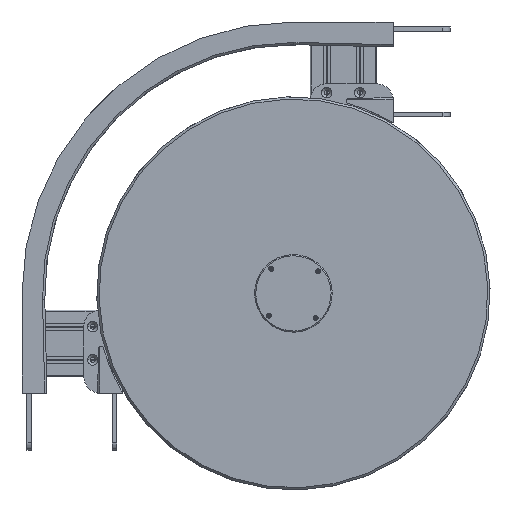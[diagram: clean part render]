
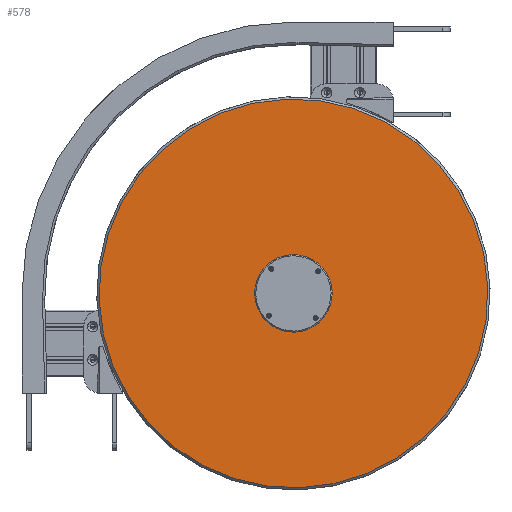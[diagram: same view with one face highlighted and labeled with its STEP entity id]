
A CAD part, front view. The second image highlights one B-rep face of the part: STEP entity #578.
In plain terms, the highlighted planar face has unit normal (0, -1, 0) as drawn and (0, 1, 0) by its records, which use the part's own axes.
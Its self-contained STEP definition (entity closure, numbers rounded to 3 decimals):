
#111 = EDGE_CURVE ( 'NONE', #120, #122, #7331, .T. ) ;
#112 = EDGE_CURVE ( 'NONE', #1669, #118, #7336, .T. ) ;
#118 = VERTEX_POINT ( 'NONE', #7340 ) ;
#120 = VERTEX_POINT ( 'NONE', #7372 ) ;
#122 = VERTEX_POINT ( 'NONE', #7371 ) ;
#145 = EDGE_CURVE ( 'NONE', #175, #146, #7403, .T. ) ;
#146 = VERTEX_POINT ( 'NONE', #7406 ) ;
#175 = VERTEX_POINT ( 'NONE', #7426 ) ;
#286 = ORIENTED_EDGE ( 'NONE', *, *, #705, .F. ) ;
#290 = EDGE_CURVE ( 'NONE', #118, #1669, #7597, .T. ) ;
#291 = ORIENTED_EDGE ( 'NONE', *, *, #290, .F. ) ;
#299 = ORIENTED_EDGE ( 'NONE', *, *, #301, .F. ) ;
#301 = EDGE_CURVE ( 'NONE', #1069, #1061, #7580, .T. ) ;
#302 = ORIENTED_EDGE ( 'NONE', *, *, #305, .T. ) ;
#305 = EDGE_CURVE ( 'NONE', #23912, #24179, #7640, .T. ) ;
#307 = ORIENTED_EDGE ( 'NONE', *, *, #24457, .T. ) ;
#308 = ORIENTED_EDGE ( 'NONE', *, *, #23567, .F. ) ;
#309 = EDGE_LOOP ( 'NONE', ( #299, #656 ) ) ;
#310 = EDGE_CURVE ( 'NONE', #23702, #21575, #7634, .T. ) ;
#576 = EDGE_LOOP ( 'NONE', ( #291, #637 ) ) ;
#578 = ADVANCED_FACE ( 'NONE', ( #7879, #7959, #7966, #7953, #7956, #7952 ), #7957, .T. ) ;
#604 = ORIENTED_EDGE ( 'NONE', *, *, #310, .F. ) ;
#615 = ORIENTED_EDGE ( 'NONE', *, *, #734, .F. ) ;
#618 = EDGE_LOOP ( 'NONE', ( #615, #622 ) ) ;
#619 = EDGE_LOOP ( 'NONE', ( #604, #308 ) ) ;
#622 = ORIENTED_EDGE ( 'NONE', *, *, #111, .F. ) ;
#637 = ORIENTED_EDGE ( 'NONE', *, *, #112, .F. ) ;
#654 = EDGE_LOOP ( 'NONE', ( #286, #698 ) ) ;
#656 = ORIENTED_EDGE ( 'NONE', *, *, #1010, .F. ) ;
#698 = ORIENTED_EDGE ( 'NONE', *, *, #145, .F. ) ;
#700 = EDGE_LOOP ( 'NONE', ( #302, #307 ) ) ;
#705 = EDGE_CURVE ( 'NONE', #146, #175, #8086, .T. ) ;
#734 = EDGE_CURVE ( 'NONE', #122, #120, #8155, .T. ) ;
#1010 = EDGE_CURVE ( 'NONE', #1061, #1069, #8489, .T. ) ;
#1061 = VERTEX_POINT ( 'NONE', #8285 ) ;
#1069 = VERTEX_POINT ( 'NONE', #8597 ) ;
#1669 = VERTEX_POINT ( 'NONE', #9576 ) ;
#7331 = CIRCLE ( 'NONE', #7339, 0.75 ) ;
#7335 = CARTESIAN_POINT ( 'NONE',  ( 30., 10., 0. ) ) ;
#7336 = CIRCLE ( 'NONE', #7387, 0.75 ) ;
#7339 = AXIS2_PLACEMENT_3D ( 'NONE', #7335, #7389, #7388 ) ;
#7340 = CARTESIAN_POINT ( 'NONE',  ( 0., 10., -29.25 ) ) ;
#7371 = CARTESIAN_POINT ( 'NONE',  ( 30., 10., 0.75 ) ) ;
#7372 = CARTESIAN_POINT ( 'NONE',  ( 30., 10., -0.75 ) ) ;
#7383 = DIRECTION ( 'NONE',  ( 0., 0., 1. ) ) ;
#7384 = DIRECTION ( 'NONE',  ( 0., 1., 0. ) ) ;
#7385 = CARTESIAN_POINT ( 'NONE',  ( 0., 10., -30. ) ) ;
#7387 = AXIS2_PLACEMENT_3D ( 'NONE', #7385, #7384, #7383 ) ;
#7388 = DIRECTION ( 'NONE',  ( 0., 0., 1. ) ) ;
#7389 = DIRECTION ( 'NONE',  ( 0., 1., 0. ) ) ;
#7396 = DIRECTION ( 'NONE',  ( 0., 0., 1. ) ) ;
#7397 = DIRECTION ( 'NONE',  ( 0., 1., 0. ) ) ;
#7398 = CARTESIAN_POINT ( 'NONE',  ( 0., 10., 30. ) ) ;
#7400 = AXIS2_PLACEMENT_3D ( 'NONE', #7398, #7397, #7396 ) ;
#7403 = CIRCLE ( 'NONE', #7400, 0.75 ) ;
#7406 = CARTESIAN_POINT ( 'NONE',  ( 0., 10., 30.75 ) ) ;
#7426 = CARTESIAN_POINT ( 'NONE',  ( 0., 10., 29.25 ) ) ;
#7578 = CARTESIAN_POINT ( 'NONE',  ( -30., 10., 0. ) ) ;
#7580 = CIRCLE ( 'NONE', #7645, 25. ) ;
#7586 = DIRECTION ( 'NONE',  ( 0., 0., 1. ) ) ;
#7587 = DIRECTION ( 'NONE',  ( 0., 1., 0. ) ) ;
#7588 = AXIS2_PLACEMENT_3D ( 'NONE', #7595, #7587, #7586 ) ;
#7595 = CARTESIAN_POINT ( 'NONE',  ( 0., 10., -30. ) ) ;
#7597 = CIRCLE ( 'NONE', #7588, 0.75 ) ;
#7629 = DIRECTION ( 'NONE',  ( 0., 0., 1. ) ) ;
#7631 = DIRECTION ( 'NONE',  ( 0., 1., 0. ) ) ;
#7632 = AXIS2_PLACEMENT_3D ( 'NONE', #7578, #7631, #7629 ) ;
#7634 = CIRCLE ( 'NONE', #7632, 0.75 ) ;
#7636 = DIRECTION ( 'NONE',  ( 0., 0., 1. ) ) ;
#7637 = DIRECTION ( 'NONE',  ( 0., 1., 0. ) ) ;
#7638 = CARTESIAN_POINT ( 'NONE',  ( 0., 10., 0. ) ) ;
#7639 = AXIS2_PLACEMENT_3D ( 'NONE', #7638, #7637, #7636 ) ;
#7640 = CIRCLE ( 'NONE', #7639, 175.5 ) ;
#7641 = DIRECTION ( 'NONE',  ( 0., 0., 1. ) ) ;
#7643 = DIRECTION ( 'NONE',  ( 0., 1., 0. ) ) ;
#7644 = CARTESIAN_POINT ( 'NONE',  ( 0., 10., 0. ) ) ;
#7645 = AXIS2_PLACEMENT_3D ( 'NONE', #7644, #7643, #7641 ) ;
#7879 = FACE_BOUND ( 'NONE', #576, .T. ) ;
#7946 = DIRECTION ( 'NONE',  ( 0., 0., 1. ) ) ;
#7947 = DIRECTION ( 'NONE',  ( 0., 1., 0. ) ) ;
#7951 = CARTESIAN_POINT ( 'NONE',  ( 0., 10., 0. ) ) ;
#7952 = FACE_BOUND ( 'NONE', #309, .T. ) ;
#7953 = FACE_BOUND ( 'NONE', #619, .T. ) ;
#7956 = FACE_OUTER_BOUND ( 'NONE', #700, .T. ) ;
#7957 = PLANE ( 'NONE',  #7960 ) ;
#7959 = FACE_BOUND ( 'NONE', #618, .T. ) ;
#7960 = AXIS2_PLACEMENT_3D ( 'NONE', #7951, #7947, #7946 ) ;
#7966 = FACE_BOUND ( 'NONE', #654, .T. ) ;
#8085 = AXIS2_PLACEMENT_3D ( 'NONE', #8089, #8124, #8123 ) ;
#8086 = CIRCLE ( 'NONE', #8085, 0.75 ) ;
#8089 = CARTESIAN_POINT ( 'NONE',  ( 0., 10., 30. ) ) ;
#8123 = DIRECTION ( 'NONE',  ( 0., 0., 1. ) ) ;
#8124 = DIRECTION ( 'NONE',  ( 0., 1., 0. ) ) ;
#8139 = DIRECTION ( 'NONE',  ( 0., 0., 1. ) ) ;
#8140 = DIRECTION ( 'NONE',  ( 0., 1., 0. ) ) ;
#8141 = CARTESIAN_POINT ( 'NONE',  ( 30., 10., 0. ) ) ;
#8148 = AXIS2_PLACEMENT_3D ( 'NONE', #8141, #8140, #8139 ) ;
#8155 = CIRCLE ( 'NONE', #8148, 0.75 ) ;
#8285 = CARTESIAN_POINT ( 'NONE',  ( 0., 10., -25. ) ) ;
#8481 = DIRECTION ( 'NONE',  ( 0., 0., 1. ) ) ;
#8482 = DIRECTION ( 'NONE',  ( 0., 1., 0. ) ) ;
#8483 = CARTESIAN_POINT ( 'NONE',  ( 0., 10., 0. ) ) ;
#8484 = AXIS2_PLACEMENT_3D ( 'NONE', #8483, #8482, #8481 ) ;
#8489 = CIRCLE ( 'NONE', #8484, 25. ) ;
#8597 = CARTESIAN_POINT ( 'NONE',  ( 0., 10., 25. ) ) ;
#9576 = CARTESIAN_POINT ( 'NONE',  ( 0., 10., -30.75 ) ) ;
#20999 = CARTESIAN_POINT ( 'NONE',  ( -30., 10., -0.75 ) ) ;
#21072 = CARTESIAN_POINT ( 'NONE',  ( -30., 10., 0.75 ) ) ;
#21074 = DIRECTION ( 'NONE',  ( 0., 0., 1. ) ) ;
#21075 = DIRECTION ( 'NONE',  ( 0., 1., 0. ) ) ;
#21076 = CARTESIAN_POINT ( 'NONE',  ( -30., 10., 0. ) ) ;
#21081 = CIRCLE ( 'NONE', #21091, 0.75 ) ;
#21091 = AXIS2_PLACEMENT_3D ( 'NONE', #21076, #21075, #21074 ) ;
#21114 = CARTESIAN_POINT ( 'NONE',  ( 0., 10., 175.5 ) ) ;
#21122 = CARTESIAN_POINT ( 'NONE',  ( 0., 10., -175.5 ) ) ;
#21392 = CIRCLE ( 'NONE', #21448, 175.5 ) ;
#21445 = DIRECTION ( 'NONE',  ( 0., 0., 1. ) ) ;
#21446 = DIRECTION ( 'NONE',  ( 0., 1., 0. ) ) ;
#21447 = CARTESIAN_POINT ( 'NONE',  ( 0., 10., 0. ) ) ;
#21448 = AXIS2_PLACEMENT_3D ( 'NONE', #21447, #21446, #21445 ) ;
#21575 = VERTEX_POINT ( 'NONE', #20999 ) ;
#23567 = EDGE_CURVE ( 'NONE', #21575, #23702, #21081, .T. ) ;
#23702 = VERTEX_POINT ( 'NONE', #21072 ) ;
#23912 = VERTEX_POINT ( 'NONE', #21122 ) ;
#24179 = VERTEX_POINT ( 'NONE', #21114 ) ;
#24457 = EDGE_CURVE ( 'NONE', #24179, #23912, #21392, .T. ) ;
